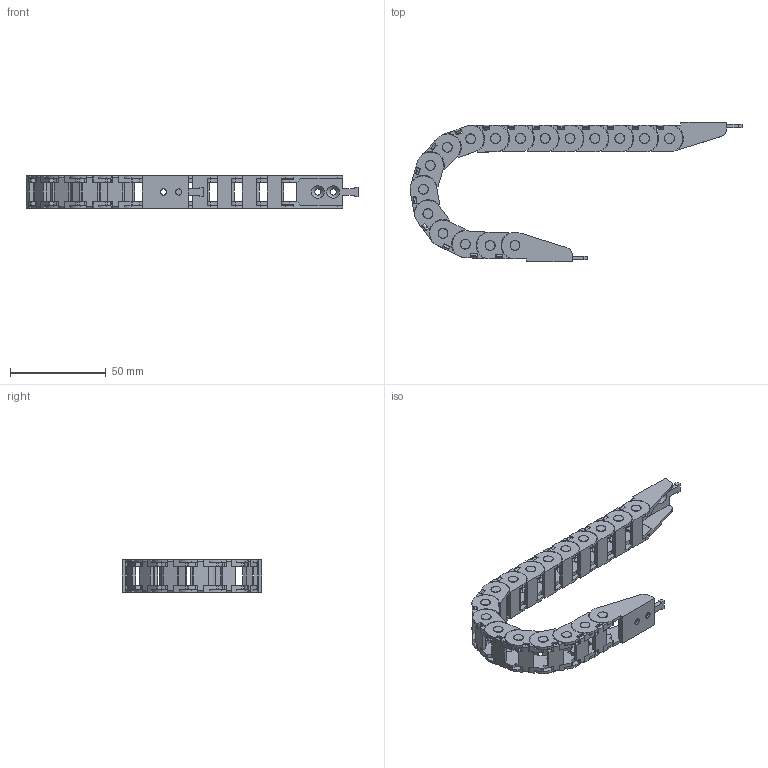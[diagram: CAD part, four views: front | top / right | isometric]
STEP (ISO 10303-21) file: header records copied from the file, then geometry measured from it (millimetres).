
FILE_DESCRIPTION(/* description */ (''),/* implementation_level */ '2;1');
FILE_NAME(/* name */ 'HSP 0130-1BN 28R 16Link_203.stp',/* time_stamp */ '2017-07-24T15:40:42+09:00',/* author */ (''),/* organization */ (''),/* preprocessor_version */ 'ST-DEVELOPER v11',/* originating_system */ 'SIEMENS UGS NX 6.0',/* authorisation */ '');
FILE_SCHEMA (('CONFIG_CONTROL_DESIGN'));
Length unit declared in the file: millimetre
Products named in the file (1): HSP 0130-1BN 28R 16Link
Bounding box: 173.75 x 73 x 17.4 mm (x, y, z)
Volume: 25052.9 mm3; surface area: 36517.7 mm2
Topology: 34 solids, 34 shells, 1406 faces, 3912 edges, 2608 vertices
Faces by surface type: plane 984, cylinder 418, cone 4
Full cylindrical faces by diameter (mm): 3.2 x4, 5 x32, 5.2 x36
Entity records: 44666 total; most frequent: CARTESIAN_POINT 7839, ORIENTED_EDGE 7660, DIRECTION 7516, EDGE_CURVE 3830, LINE 2958, VECTOR 2958, VERTEX_POINT 2602, AXIS2_PLACEMENT_3D 2279
